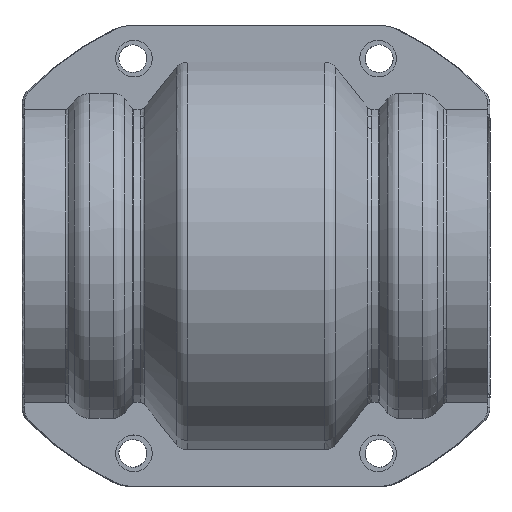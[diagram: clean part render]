
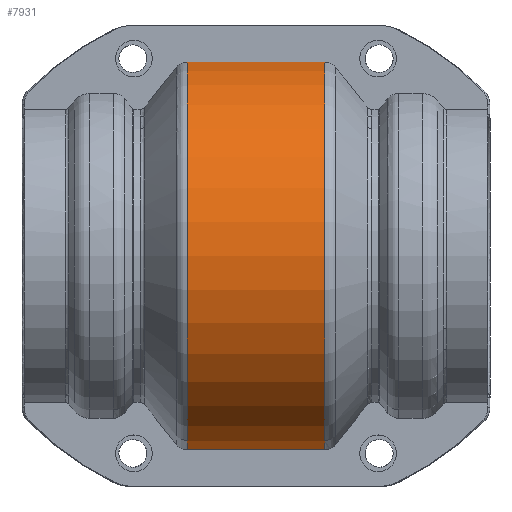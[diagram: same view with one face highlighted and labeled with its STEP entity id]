
A CAD part, top view. The second image highlights one B-rep face of the part: STEP entity #7931.
In plain terms, the highlighted cylindrical face has radius 48.4 mm (diameter 96.8 mm), a partial arc.
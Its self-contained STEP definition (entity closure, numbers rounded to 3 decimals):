
#6024=CARTESIAN_POINT('',(16.869,0.,0.));
#6025=DIRECTION('',(-1.,0.,0.));
#6026=DIRECTION('',(0.,0.984,-0.176));
#6027=AXIS2_PLACEMENT_3D('',#6024,#6025,#6026);
#6032=CARTESIAN_POINT('',(16.869,0.,0.));
#6033=DIRECTION('',(-1.,0.,0.));
#6034=DIRECTION('',(0.,0.,-1.));
#6035=AXIS2_PLACEMENT_3D('',#6032,#6033,#6034);
#6040=CARTESIAN_POINT('',(16.869,-47.648,-8.5));
#6067=DIRECTION('',(1.,0.,0.));
#6068=VECTOR('',#6067,33.737);
#6069=CARTESIAN_POINT('',(-16.869,-47.648,-8.5));
#6070=LINE('',#6069,#6068);
#6074=DIRECTION('',(-1.,0.,0.));
#6075=VECTOR('',#6074,33.737);
#6076=CARTESIAN_POINT('',(16.869,47.648,-8.5));
#6077=LINE('',#6076,#6075);
#6097=CARTESIAN_POINT('',(-16.869,0.,0.));
#6098=DIRECTION('',(1.,0.,0.));
#6099=DIRECTION('',(0.,-0.984,-0.176));
#6100=AXIS2_PLACEMENT_3D('',#6097,#6098,#6099);
#6105=CARTESIAN_POINT('',(-16.869,0.,0.));
#6106=DIRECTION('',(1.,0.,0.));
#6107=DIRECTION('',(0.,0.,-1.));
#6108=AXIS2_PLACEMENT_3D('',#6105,#6106,#6107);
#6113=CARTESIAN_POINT('',(-16.869,47.648,-8.5));
#6514=VERTEX_POINT('',#6113);
#6515=CARTESIAN_POINT('',(16.869,47.648,-8.5));
#6516=VERTEX_POINT('',#6515);
#6614=VERTEX_POINT('',#6040);
#6615=CARTESIAN_POINT('',(-16.869,-47.648,-8.5));
#6616=VERTEX_POINT('',#6615);
#6718=CARTESIAN_POINT('',(16.869,0.,-48.4));
#6719=VERTEX_POINT('',#6718);
#6720=CARTESIAN_POINT('',(-16.869,0.,-48.4));
#6721=VERTEX_POINT('',#6720);
#7916=CARTESIAN_POINT('',(-57.,0.,0.));
#7917=DIRECTION('',(-1.,0.,0.));
#7918=DIRECTION('',(0.,0.,-1.));
#7919=AXIS2_PLACEMENT_3D('',#7916,#7917,#7918);
#7920=CYLINDRICAL_SURFACE('',#7919,48.4);
#7921=ORIENTED_EDGE('',*,*,#7185,.T.);
#7922=ORIENTED_EDGE('',*,*,#7907,.F.);
#7923=ORIENTED_EDGE('',*,*,#7905,.F.);
#7924=ORIENTED_EDGE('',*,*,#6888,.T.);
#7926=ORIENTED_EDGE('',*,*,#7925,.F.);
#7928=ORIENTED_EDGE('',*,*,#7927,.F.);
#7929=EDGE_LOOP('',(#7921,#7922,#7923,#7924,#7926,#7928));
#7930=FACE_OUTER_BOUND('',#7929,.F.);
#6028=CIRCLE('',#6027,48.4);
#6036=CIRCLE('',#6035,48.4);
#6101=CIRCLE('',#6100,48.4);
#6109=CIRCLE('',#6108,48.4);
#6888=EDGE_CURVE('',#6516,#6514,#6077,.T.);
#7185=EDGE_CURVE('',#6616,#6614,#6070,.T.);
#7905=EDGE_CURVE('',#6516,#6719,#6028,.T.);
#7907=EDGE_CURVE('',#6719,#6614,#6036,.T.);
#7925=EDGE_CURVE('',#6721,#6514,#6109,.T.);
#7927=EDGE_CURVE('',#6616,#6721,#6101,.T.);
#7931=ADVANCED_FACE('',(#7930),#7920,.T.);
